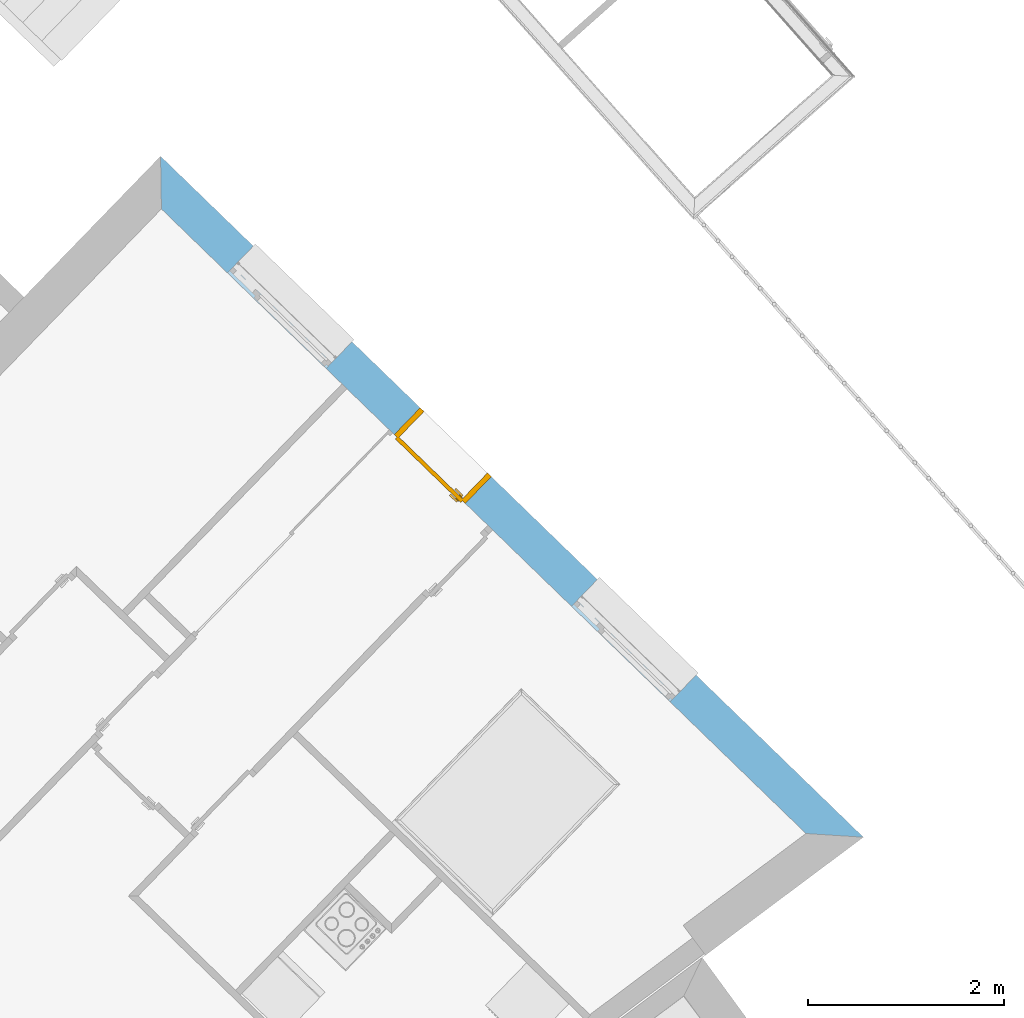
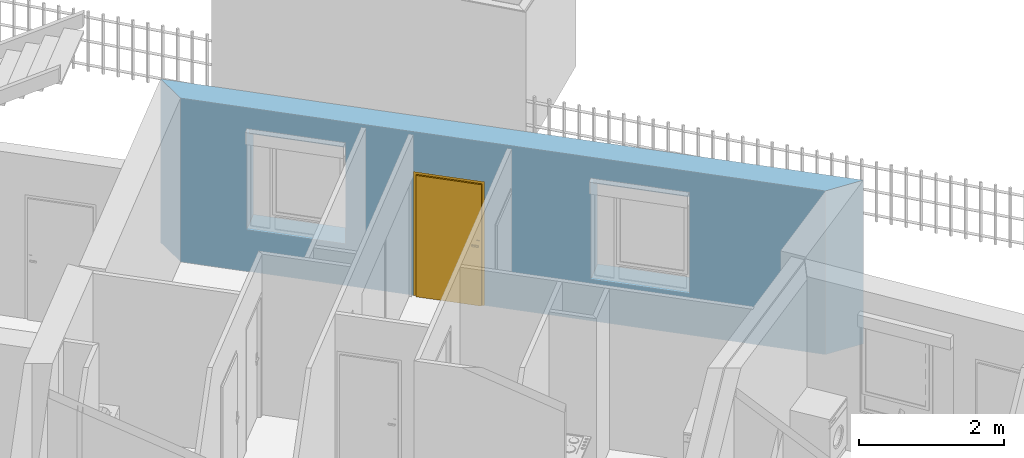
# One storey, part 24 of 195: 1 door, 3 openings, plus 1 element that does not belong to this part.
"""IFC2X3 building model written with IfcOpenShell, lengths in metres."""

import ifcopenshell
import ifcopenshell.guid

model = None  # the IFC model being written
_history = None  # IfcOwnerHistory: only IFC2X3 demands one
_inside = {}  # id of a spatial element -> (the spatial element, [elements in it])
_under = {}  # id of a project, library or spatial element -> (it, [spatial elements below it])
_declared = {}  # id of a project -> (the project, [libraries it declares])
_typed = {}  # id of a type object -> (the type object, [elements of that type])
_made_of = {}  # id of a material, layer set ... -> (it, [elements and type objects made of it])


def new_model(schema):
    """Start an empty IFC model of exactly this schema.

    Asked for "IFC4X3", IfcOpenShell would pick the latest addendum, in which some entities
    have other attributes; the version numbers below select the first issue.
    IFC2X3 requires an IfcOwnerHistory on every rooted entity: one is made here for all.
    """
    global model, _history
    if schema == "IFC4X3":
        model = ifcopenshell.file(schema_version=(4, 3, 0, 0))
    else:
        model = ifcopenshell.file(schema=schema)
    _inside.clear()
    _under.clear()
    _declared.clear()
    _typed.clear()
    _made_of.clear()
    _history = None
    if model.schema == "IFC2X3":
        org = make("IfcOrganization", Name="unknown")
        user = make(
            "IfcPersonAndOrganization",
            ThePerson=make("IfcPerson", FamilyName="unknown"),
            TheOrganization=org,
        )
        app = make(
            "IfcApplication",
            ApplicationDeveloper=org,
            Version="unknown",
            ApplicationFullName="unknown",
            ApplicationIdentifier="unknown",
        )
        _history = make(
            "IfcOwnerHistory",
            OwningUser=user,
            OwningApplication=app,
            ChangeAction="ADDED",
            CreationDate=0,
        )
    return model


def make(cls, **values):
    """One entity of the class cls with the attributes given. An attribute that is None is left unset."""
    return model.create_entity(
        cls, **{name: value for name, value in values.items() if value is not None}
    )


def entity(cls, *values):
    """Any entity or typed value of the class cls, its attributes in the order of the schema. None: left unset."""
    e = model.create_entity(cls)
    for i, value in enumerate(values):
        if value is not None:
            e[i] = value
    return e


def rooted(cls, **values):
    """An entity with a GlobalId (a new one), such as an element, a storey or a relation."""
    return make(cls, GlobalId=ifcopenshell.guid.new(), OwnerHistory=_history, **values)


def si_unit(unit_type, name, prefix=None):
    """IfcSIUnit, for example si_unit("LENGTHUNIT", "METRE", prefix="MILLI")."""
    return make("IfcSIUnit", UnitType=unit_type, Prefix=prefix, Name=name)


def converted_unit(unit_type, name, factor, base, dimensions=None, offset=None):
    """IfcConversionBasedUnit, such as the inch: factor (a typed value) times the base unit."""
    return make(
        "IfcConversionBasedUnit"
        if offset is None
        else "IfcConversionBasedUnitWithOffset",
        ConversionOffset=offset,
        Dimensions=None
        if dimensions is None
        else entity("IfcDimensionalExponents", *dimensions),
        UnitType=unit_type,
        Name=name,
        ConversionFactor=make(
            "IfcMeasureWithUnit", ValueComponent=factor, UnitComponent=base
        ),
    )


def derived_unit(unit_type, elements):
    """IfcDerivedUnit: a product of units, each with its exponent."""
    return make(
        "IfcDerivedUnit",
        Elements=[
            make("IfcDerivedUnitElement", Unit=unit, Exponent=power)
            for unit, power in elements
        ],
        UnitType=unit_type,
    )


def money_unit(currency):
    """IfcMonetaryUnit."""
    return make("IfcMonetaryUnit", Currency=currency)


def assignment(units):
    """IfcUnitAssignment: the units of a project."""
    return None if units is None else make("IfcUnitAssignment", Units=units)


def point(xyz):
    """IfcCartesianPoint."""
    return None if xyz is None else make("IfcCartesianPoint", Coordinates=xyz)


def direction(xyz):
    """IfcDirection."""
    return None if xyz is None else make("IfcDirection", DirectionRatios=xyz)


def frame(location, z_axis=None, x_axis=None):
    """IfcAxis2Placement3D, a coordinate frame: its origin and axes. An axis left out is left unset."""
    return make(
        "IfcAxis2Placement3D",
        Location=point(location),
        Axis=direction(z_axis),
        RefDirection=direction(x_axis),
    )


def frame_2d(location, x_axis=None):
    """IfcAxis2Placement2D, a coordinate frame in the plane: its origin and x axis."""
    return make(
        "IfcAxis2Placement2D", Location=point(location), RefDirection=direction(x_axis)
    )


def origin_with_axes():
    """The frame at (0, 0, 0) with the z axis (0, 0, 1) and the x axis (1, 0, 0) written out."""
    return frame((0.0, 0.0, 0.0), z_axis=(0.0, 0.0, 1.0), x_axis=(1.0, 0.0, 0.0))


def origin_2d_with_axis():
    """The frame at (0, 0) in the plane with the x axis (1, 0) written out."""
    return frame_2d((0.0, 0.0), x_axis=(1.0, 0.0))


def place(relative_to, where):
    """IfcLocalPlacement: puts the frame where relative to a parent placement (None: the world)."""
    return make(
        "IfcLocalPlacement", PlacementRelTo=relative_to, RelativePlacement=where
    )


def context(
    kind, dimensions, precision=None, world=None, true_north=None, identifier=None
):
    """IfcGeometricRepresentationContext, for example the 3D "Model" context."""
    return make(
        "IfcGeometricRepresentationContext",
        ContextIdentifier=identifier,
        ContextType=kind,
        CoordinateSpaceDimension=dimensions,
        Precision=precision,
        WorldCoordinateSystem=world,
        TrueNorth=true_north,
    )


def subcontext(parent, identifier, kind, view, scale=None):
    """IfcGeometricRepresentationSubContext, for example "Body" below "Model"."""
    return make(
        "IfcGeometricRepresentationSubContext",
        ContextIdentifier=identifier,
        ContextType=kind,
        ParentContext=parent,
        TargetScale=scale,
        TargetView=view,
    )


def project(units=None, contexts=None):
    """IfcProject with its units and contexts."""
    return rooted(
        "IfcProject",
        Name="project",
        RepresentationContexts=contexts,
        UnitsInContext=assignment(units),
    )


def spatial(cls, under=None, at=None, **own):
    """A site, building, storey or space (cls), placed at a placement, below another one or the project."""
    s = rooted(cls, ObjectPlacement=at, **own)
    if under is not None:
        _under.setdefault(under.id(), (under, []))[1].append(s)
    return s


def polyline(points):
    """IfcPolyline through the points."""
    return make("IfcPolyline", Points=[point(p) for p in points])


def profile(cls, at=None, kind="AREA", **sizes):
    """A parametric profile (cls). Its sizes go by their IFC names, for example OverallWidth=200.0."""
    return make(cls, ProfileType=kind, Position=at, **sizes)


def rectangle(**sizes):
    """IfcRectangleProfileDef."""
    return profile("IfcRectangleProfileDef", **sizes)


def outline(outer, holes=None, kind="AREA"):
    """IfcArbitraryClosedProfileDef: a profile drawn as a closed curve; with holes, ...WithVoids."""
    if holes is None:
        return make("IfcArbitraryClosedProfileDef", ProfileType=kind, OuterCurve=outer)
    return make(
        "IfcArbitraryProfileDefWithVoids",
        ProfileType=kind,
        OuterCurve=outer,
        InnerCurves=holes,
    )


def extrude(swept, where, along, depth):
    """IfcExtrudedAreaSolid: the profile swept, set in the frame where, extruded along a direction by depth."""
    return make(
        "IfcExtrudedAreaSolid",
        SweptArea=swept,
        Position=where,
        ExtrudedDirection=direction(along),
        Depth=depth,
    )


def faces_of(points, faces, orient=None, outer=None):
    """IfcFace entities. A face is a list of loops; a loop is a list of indices into points, from 0.

    orient and outer hold one flag for each loop. By default every Orientation is true, the
    first loop of a face is its IfcFaceOuterBound and the others are IfcFaceBound.
    """
    made = []
    for i, loops in enumerate(faces):
        bounds = []
        for j, loop in enumerate(loops):
            is_outer = j == 0 if outer is None else outer[i][j]
            bounds.append(
                make(
                    "IfcFaceOuterBound" if is_outer else "IfcFaceBound",
                    Bound=make("IfcPolyLoop", Polygon=[points[k] for k in loop]),
                    Orientation=True if orient is None else orient[i][j],
                )
            )
        made.append(make("IfcFace", Bounds=bounds))
    return made


def faceted_brep(points, faces, orient=None, outer=None, voids=None):
    """IfcFacetedBrep: a solid bounded by flat faces; with voids (closed shells), ...WithVoids."""
    shared = [point(p) for p in points]
    hull = make("IfcClosedShell", CfsFaces=faces_of(shared, faces, orient, outer))
    if voids is None:
        return make("IfcFacetedBrep", Outer=hull)
    return make(
        "IfcFacetedBrepWithVoids",
        Outer=hull,
        Voids=[
            make(cls, CfsFaces=faces_of(shared, fs, o, b)) for cls, fs, o, b in voids
        ],
    )


def shape(context_of_items, identifier, shape_type, items):
    """IfcShapeRepresentation: the items that make up one representation, for example the "Body"."""
    return make(
        "IfcShapeRepresentation",
        ContextOfItems=context_of_items,
        RepresentationIdentifier=identifier,
        RepresentationType=shape_type,
        Items=items,
    )


def source(mapping_origin, context_of_items, identifier, shape_type, items):
    """IfcRepresentationMap: a shape defined once, which mapped items show again and again."""
    return make(
        "IfcRepresentationMap",
        MappingOrigin=mapping_origin,
        MappedRepresentation=shape(context_of_items, identifier, shape_type, items),
    )


def transform(
    local_origin,
    x_axis=None,
    y_axis=None,
    z_axis=None,
    scale=None,
    scale2=None,
    scale3=None,
    uniform=True,
):
    """IfcCartesianTransformationOperator3D, or its non-uniform kind. x_axis, y_axis, z_axis: its Axis1, 2, 3."""
    if uniform:
        return make(
            "IfcCartesianTransformationOperator3D",
            Axis1=direction(x_axis),
            Axis2=direction(y_axis),
            LocalOrigin=point(local_origin),
            Scale=scale,
            Axis3=direction(z_axis),
        )
    return make(
        "IfcCartesianTransformationOperator3DnonUniform",
        Axis1=direction(x_axis),
        Axis2=direction(y_axis),
        LocalOrigin=point(local_origin),
        Scale=scale,
        Axis3=direction(z_axis),
        Scale2=scale2,
        Scale3=scale3,
    )


def mapped(mapping_source, mapping_target):
    """IfcMappedItem: shows the shape of a source again, moved by a transform."""
    return make(
        "IfcMappedItem", MappingSource=mapping_source, MappingTarget=mapping_target
    )


def material(Name=None, Category=None):
    """IfcMaterial."""
    return make("IfcMaterial", Name=Name, Category=Category)


def layer(
    of_material, thickness, ventilated=None, Name=None, Category=None, Priority=None
):
    """IfcMaterialLayer: one layer of a wall or slab, of a material (None: an air gap)."""
    return make(
        "IfcMaterialLayer",
        Material=of_material,
        LayerThickness=thickness,
        IsVentilated=ventilated,
        Name=Name,
        Category=Category,
        Priority=Priority,
    )


def layer_set(layers, Name=None):
    """IfcMaterialLayerSet."""
    return make("IfcMaterialLayerSet", MaterialLayers=layers, LayerSetName=Name)


def layer_usage(for_layer_set, set_direction, sense, offset, extent=None):
    """IfcMaterialLayerSetUsage: how a layer set lies in its element."""
    return make(
        "IfcMaterialLayerSetUsage",
        ForLayerSet=for_layer_set,
        LayerSetDirection=set_direction,
        DirectionSense=sense,
        OffsetFromReferenceLine=offset,
        ReferenceExtent=extent,
    )


def made_of(thing, what):
    """Note that an element or type object is made of a material, layer set ...; save() writes the relation."""
    if what is not None:
        _made_of.setdefault(what.id(), (what, []))[1].append(thing)
    return thing


def type_object(cls, material=None, **own):
    """A type object (cls), such as IfcWallType, which elements share."""
    return made_of(rooted(cls, **own), material)


def element(
    cls,
    number,
    at=None,
    inside=None,
    cuts=None,
    type_object=None,
    material=None,
    context=None,
    identifier="Body",
    shape_type=None,
    held_by="IfcProductDefinitionShape",
    body=None,
    shapes=None,
    **own,
):
    """One element of the class cls, such as IfcWall. Its Tag is "e" and its number.

    at: its placement. inside: the storey or other place that contains it. cuts: it is an
    opening in that element (IfcRelVoidsElement). A single representation is given by context,
    identifier, shape_type and body (its items); several are given by shapes. held_by: the class
    of the entity that holds the representations. save() writes the other relations.
    """
    e = rooted(cls, Tag="e%d" % number, ObjectPlacement=at, **own)
    if body is not None:
        shapes = [shape(context, identifier, shape_type, body)]
    if shapes is not None:
        e.Representation = make(held_by, Representations=shapes)
    if inside is not None:
        _inside.setdefault(inside.id(), (inside, []))[1].append(e)
    if cuts is not None:
        rooted(
            "IfcRelVoidsElement", RelatingBuildingElement=cuts, RelatedOpeningElement=e
        )
    if type_object is not None:
        _typed.setdefault(type_object.id(), (type_object, []))[1].append(e)
    return made_of(e, material)


def fill(opening, filler):
    """IfcRelFillsElement: the door or window that sits in an opening."""
    return rooted(
        "IfcRelFillsElement",
        RelatingOpeningElement=opening,
        RelatedBuildingElement=filler,
    )


def aggregate(whole, parts):
    """IfcRelAggregates: a whole, such as a stair, and the parts it consists of."""
    return rooted("IfcRelAggregates", RelatingObject=whole, RelatedObjects=parts)


def save(model, path):
    """Write the relations noted so far, then the file.

    IfcRelAggregates (storeys below a building ...), IfcRelContainedInSpatialStructure (elements
    in a storey), IfcRelDefinesByType, IfcRelAssociatesMaterial and IfcRelDeclares: one each for
    every whole, place, type object, material and project.
    """
    for whole, parts in _under.values():
        aggregate(whole, parts)
    for where, things in _inside.values():
        rooted(
            "IfcRelContainedInSpatialStructure",
            RelatedElements=things,
            RelatingStructure=where,
        )
    for kind, things in _typed.values():
        rooted("IfcRelDefinesByType", RelatedObjects=things, RelatingType=kind)
    for what, things in _made_of.values():
        rooted("IfcRelAssociatesMaterial", RelatedObjects=things, RelatingMaterial=what)
    for by, libraries in _declared.values():
        rooted("IfcRelDeclares", RelatingContext=by, RelatedDefinitions=libraries)
    model.write(path)


model = new_model("IFC2X3")

# Units and contexts
model_context = context("Model", 3, precision=1e-05, world=origin_with_axes(), true_north=direction((0.0, 1.0)))
body_context = subcontext(model_context, "Body", "Model", "MODEL_VIEW")
ifc_project = project(units=[si_unit("LENGTHUNIT", "METRE"), si_unit("AREAUNIT", "SQUARE_METRE"), si_unit("VOLUMEUNIT", "CUBIC_METRE"), converted_unit("PLANEANGLEUNIT", "DEGREE", entity("IfcPlaneAngleMeasure", 0.0174532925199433), si_unit("PLANEANGLEUNIT", "RADIAN"), dimensions=[0, 0, 0, 0, 0, 0, 0]), money_unit("CHF"), converted_unit("TIMEUNIT", "Year", entity("IfcTimeMeasure", 31557600.0), si_unit("TIMEUNIT", "SECOND"), dimensions=[0, 0, 1, 0, 0, 0, 0]), si_unit("MASSUNIT", "GRAM", prefix="KILO"), si_unit("THERMODYNAMICTEMPERATUREUNIT", "DEGREE_CELSIUS"), si_unit("LUMINOUSINTENSITYUNIT", "LUMEN"), si_unit("ENERGYUNIT", "JOULE", prefix="MEGA"), derived_unit("THERMALCONDUCTANCEUNIT", [(si_unit("POWERUNIT", "WATT"), 1), (si_unit("LENGTHUNIT", "METRE"), -1), (si_unit("THERMODYNAMICTEMPERATUREUNIT", "KELVIN"), -1)]), derived_unit("SPECIFICHEATCAPACITYUNIT", [(si_unit("ENERGYUNIT", "JOULE"), 1), (si_unit("MASSUNIT", "GRAM", prefix="KILO"), -1), (si_unit("THERMODYNAMICTEMPERATUREUNIT", "KELVIN"), -1)]), derived_unit("MASSDENSITYUNIT", [(si_unit("MASSUNIT", "GRAM", prefix="KILO"), 1), (si_unit("VOLUMEUNIT", "CUBIC_METRE"), -1)])], contexts=[model_context])

# Site, building, storey
site_placement = place(None, origin_with_axes())
site = spatial("IfcSite", under=ifc_project, at=site_placement, Name="Site", CompositionType="ELEMENT")
building_placement = place(site_placement, origin_with_axes())
building = spatial("IfcBuilding", under=site, at=building_placement, Name="Bâtiment", CompositionType="ELEMENT")
storey_placement = place(building_placement, origin_with_axes())
storey = spatial("IfcBuildingStorey", under=building, at=storey_placement, Name="rdc", CompositionType="ELEMENT", Elevation=0.0)

# Wall, openings, door
ifc_material_1 = material(Name="Parpaing 312445824")
ifc_layer_1 = layer(ifc_material_1, 0.22, ventilated="UNKNOWN")
ifc_material_2 = material(Name="Isolant styromousse 301821074")
ifc_layer_2 = layer(ifc_material_2, 0.16, ventilated="UNKNOWN")
ifc_layer_set = layer_set([ifc_layer_1, ifc_layer_2], Name="isol int 22+16 0836643197")
ifc_layer_usage = layer_usage(ifc_layer_set, "AXIS2", "NEGATIVE", 0.0)
wall_type = type_object("IfcWallType", Name="isol int 22+16 0836643197 380", PredefinedType="NOTDEFINED")
wall_placement = place(storey_placement, frame((9531.989867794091, -1061.560379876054, 57.7), z_axis=(0.0, 0.0, 1.0), x_axis=(0.7181763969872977, -0.6958610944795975, 0.0)))
wall = element("IfcWallStandardCase", 1, at=wall_placement, inside=storey, type_object=wall_type, material=ifc_layer_usage, Name="Mur-116", context=body_context, shape_type="SweptSolid", body=[
    extrude(outline(polyline([(0.3800000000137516, -0.3799999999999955), (9.524551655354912, -0.3800000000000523), (9.970619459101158, 0.0), (0.0, 0.0), (0.3800000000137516, -0.3799999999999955)])), origin_with_axes(), (0.0, 0.0, 1.0), 2.75),
])
opening_1_placement = place(wall_placement, frame((6.896864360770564, 0.0, 0.7000000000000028), z_axis=(0.0, 0.0, 1.0), x_axis=(1.0, 0.0, 0.0)))
element("IfcOpeningElement", 2, at=opening_1_placement, cuts=wall, Name="Fen-045", context=body_context, shape_type="Brep", body=[
    faceted_brep([(-0.7000000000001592, -0.2200000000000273, 1.5), (0.6999999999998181, -0.2200000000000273, 1.5), (0.6999999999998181, 4.983827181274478, 1.5), (-0.7000000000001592, 4.983827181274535, 1.5), (-0.7000000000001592, -0.2200000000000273, 1.700000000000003), (0.6999999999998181, -0.2200000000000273, 1.700000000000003), (0.6999999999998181, -0.3000000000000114, 1.5), (0.6999999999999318, -0.3000000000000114, 0.0), (0.6999999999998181, 4.983827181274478, 0.0), (-0.7000000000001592, 4.983827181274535, 0.0), (-0.7000000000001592, -0.2999999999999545, 1.5), (-0.7000000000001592, -0.3000000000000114, 0.0), (-0.7000000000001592, -0.4799999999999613, 1.5), (-0.7000000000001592, -0.4799999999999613, 1.700000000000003), (0.6999999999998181, -0.4799999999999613, 1.700000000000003), (0.6999999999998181, -0.4799999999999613, 1.5), (0.6999999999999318, -5.36382718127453, 1.5), (0.6999999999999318, -5.36382718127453, 0.0), (-0.7000000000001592, -5.363827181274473, 0.0), (-0.7000000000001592, -5.363827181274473, 1.5)], [[[0, 1, 2, 3]], [[1, 0, 4, 5]], [[1, 6, 7, 8, 2]], [[2, 8, 9, 3]], [[10, 0, 3, 9, 11]], [[0, 10, 12, 13, 4]], [[4, 13, 14, 5]], [[6, 1, 5, 14, 15]], [[6, 15, 16, 17, 7]], [[7, 11, 9, 8]], [[12, 10, 11, 18, 19]], [[12, 15, 14, 13]], [[15, 12, 19, 16]], [[19, 18, 17, 16]], [[11, 7, 17, 18]]]),
])
opening_2_placement = place(wall_placement, frame((2.01605944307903, 0.0, 0.7000000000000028), z_axis=(0.0, 0.0, 1.0), x_axis=(1.0, 0.0, 0.0)))
element("IfcOpeningElement", 3, at=opening_2_placement, cuts=wall, Name="Fen-045", context=body_context, shape_type="Brep", body=[
    faceted_brep([(-0.7000000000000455, -0.2200000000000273, 1.5), (0.6999999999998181, -0.2200000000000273, 1.5), (0.6999999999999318, 4.983827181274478, 1.5), (-0.7000000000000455, 4.983827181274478, 1.5), (-0.7000000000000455, -0.2200000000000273, 1.700000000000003), (0.6999999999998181, -0.2200000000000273, 1.700000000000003), (0.6999999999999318, -0.3000000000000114, 1.5), (0.6999999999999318, -0.3000000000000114, 0.0), (0.6999999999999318, 4.983827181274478, 0.0), (-0.7000000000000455, 4.983827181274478, 0.0), (-0.7000000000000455, -0.2999999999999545, 1.5), (-0.7000000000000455, -0.3000000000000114, 0.0), (-0.7000000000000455, -0.4799999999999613, 1.5), (-0.7000000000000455, -0.4799999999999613, 1.700000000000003), (0.6999999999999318, -0.4799999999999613, 1.700000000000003), (0.6999999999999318, -0.4799999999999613, 1.5), (0.6999999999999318, -5.363827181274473, 1.5), (0.6999999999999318, -5.363827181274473, 0.0), (-0.7000000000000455, -5.363827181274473, 0.0), (-0.7000000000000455, -5.363827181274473, 1.5)], [[[0, 1, 2, 3]], [[1, 0, 4, 5]], [[1, 6, 7, 8, 2]], [[2, 8, 9, 3]], [[10, 0, 3, 9, 11]], [[0, 10, 12, 13, 4]], [[4, 13, 14, 5]], [[6, 1, 5, 14, 15]], [[6, 15, 16, 17, 7]], [[7, 11, 9, 8]], [[12, 10, 11, 18, 19]], [[12, 15, 14, 13]], [[15, 12, 19, 16]], [[19, 18, 17, 16]], [[11, 7, 17, 18]]]),
])
opening_3_placement = place(wall_placement, frame((4.187148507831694, 0.0, 0.0), z_axis=(0.0, 0.0, 1.0), x_axis=(1.0, 0.0, 0.0)))
opening_3 = element("IfcOpeningElement", 4, at=opening_3_placement, cuts=wall, Name="Por-297", context=body_context, shape_type="SweptSolid", body=[
    extrude(rectangle(XDim=1.01000001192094, YDim=2.079999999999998, at=origin_2d_with_axis()), frame((-5.960487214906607e-09, 0.3799999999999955, 1.039999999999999), z_axis=(0.0, -1.0, 0.0), x_axis=(-1.0, 0.0, 0.0)), (0.0, 0.0, 1.0), 0.76),
])
door_style = type_object("IfcDoorStyle", Name="Porte_1v", ConstructionType="NOTDEFINED", OperationType="NOTDEFINED", ParameterTakesPrecedence=False, Sizeable=False)
shared_shape = source(origin_with_axes(), body_context, "Body", "Brep", [
    faceted_brep([(0.5049999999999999, 0.0, 0.0), (0.465, 0.0, 0.0), (0.4649999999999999, 0.0, 2.04), (-0.4649999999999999, 0.0, 2.04), (-0.465, 0.0, 0.0), (-0.5049999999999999, 0.0, 0.0), (-0.5049999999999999, 0.0, 2.08), (0.5049999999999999, 0.0, 2.08), (0.5049999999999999, -0.38, 0.0), (0.45, -0.3799999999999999, 0.0), (0.45, -0.01500000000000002, 0.0), (0.465, -0.01500000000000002, 0.0), (0.4649999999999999, -0.01500000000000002, 2.04), (-0.4649999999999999, -0.01499999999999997, 2.04), (-0.465, -0.01499999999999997, 0.0), (-0.45, -0.01499999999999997, 0.0), (-0.45, -0.3799999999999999, 0.0), (-0.5049999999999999, -0.3799999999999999, 0.0), (-0.5049999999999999, -0.3799999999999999, 2.08), (0.5049999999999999, -0.38, 2.08), (-0.45, -0.3799999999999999, 2.025), (0.45, -0.3799999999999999, 2.025), (0.45, -0.01500000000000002, 2.025), (-0.45, -0.01499999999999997, 2.025)], [[[0, 1, 2, 3, 4, 5, 6, 7]], [[0, 8, 9, 10, 11, 1]], [[1, 11, 12, 2]], [[2, 12, 13, 3]], [[3, 13, 14, 4]], [[5, 4, 14, 15, 16, 17]], [[18, 6, 5, 17]], [[19, 7, 6, 18]], [[8, 0, 7, 19]], [[9, 8, 19, 18, 17, 16, 20, 21]], [[10, 9, 21, 22]], [[11, 10, 22, 23, 15, 14, 13, 12]], [[23, 20, 16, 15]], [[22, 21, 20, 23]]]),
    faceted_brep([(-0.4, -0.01499999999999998, 0.9), (-0.4399999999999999, -0.01499999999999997, 0.9), (-0.4399999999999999, -0.01499999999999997, 1.1), (-0.4, -0.01499999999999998, 1.1), (-0.4, -0.02499999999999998, 0.9), (-0.4399999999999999, -0.02499999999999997, 0.9), (-0.4399999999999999, -0.02499999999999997, 1.1), (-0.4, -0.02499999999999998, 1.1)], [[[0, 1, 2, 3]], [[1, 0, 4, 5]], [[2, 1, 5, 6]], [[3, 2, 6, 7]], [[0, 3, 7, 4]], [[5, 4, 7, 6]]]),
    faceted_brep([(-0.3299999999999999, -0.02499999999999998, 1.0), (-0.4299999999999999, -0.02499999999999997, 1.0), (-0.4299999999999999, -0.02499999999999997, 1.02), (-0.3299999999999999, -0.02499999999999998, 1.02), (-0.3299999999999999, -0.04499999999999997, 1.0), (-0.4299999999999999, -0.04499999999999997, 1.0), (-0.4299999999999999, -0.04499999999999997, 1.02), (-0.3299999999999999, -0.04499999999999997, 1.02)], [[[0, 1, 2, 3]], [[1, 0, 4, 5]], [[2, 1, 5, 6]], [[3, 2, 6, 7]], [[0, 3, 7, 4]], [[5, 4, 7, 6]]]),
    faceted_brep([(-0.4, 0.03500000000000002, 0.9), (-0.4399999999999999, 0.03500000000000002, 0.9), (-0.4399999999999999, 0.03500000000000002, 1.1), (-0.4, 0.03500000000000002, 1.1), (-0.4, 0.02500000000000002, 0.9), (-0.4399999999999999, 0.02500000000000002, 0.9), (-0.4399999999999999, 0.02500000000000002, 1.1), (-0.4, 0.02500000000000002, 1.1)], [[[0, 1, 2, 3]], [[1, 0, 4, 5]], [[2, 1, 5, 6]], [[3, 2, 6, 7]], [[0, 3, 7, 4]], [[5, 4, 7, 6]]]),
    faceted_brep([(-0.3299999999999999, 0.05500000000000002, 1.0), (-0.4299999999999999, 0.05500000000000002, 1.0), (-0.4299999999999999, 0.05500000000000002, 1.02), (-0.3299999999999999, 0.05500000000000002, 1.02), (-0.3299999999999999, 0.03500000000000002, 1.0), (-0.4299999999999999, 0.03500000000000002, 1.0), (-0.4299999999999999, 0.03500000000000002, 1.02), (-0.3299999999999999, 0.03500000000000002, 1.02)], [[[0, 1, 2, 3]], [[1, 0, 4, 5]], [[2, 1, 5, 6]], [[3, 2, 6, 7]], [[0, 3, 7, 4]], [[5, 4, 7, 6]]]),
    faceted_brep([(-0.465, 0.02500000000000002, 0.0), (0.465, 0.02499999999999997, 0.0), (0.465, -0.01500000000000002, 0.0), (-0.465, -0.01499999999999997, 0.0), (-0.465, 0.02500000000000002, 2.04), (0.465, 0.02499999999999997, 2.04), (0.465, -0.01500000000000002, 2.04), (-0.465, -0.01499999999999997, 2.04)], [[[0, 1, 2, 3]], [[0, 4, 5, 1]], [[1, 5, 6, 2]], [[3, 2, 6, 7]], [[4, 0, 3, 7]], [[5, 4, 7, 6]]]),
])
door_placement = place(opening_3_placement, frame((0.4649999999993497, 0.0, 0.0), z_axis=(0.0, 0.0, 1.0), x_axis=(-1.0, 0.0, 0.0)))
door = element("IfcDoor", 5, at=door_placement, inside=storey, type_object=door_style, Name="Por-297", OverallHeight=2.04, OverallWidth=0.93, context=body_context, shape_type="MappedRepresentation", body=[
    mapped(shared_shape, transform((0.4649999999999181, 0.3800000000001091, 0.0))),
])
fill(opening_3, door)

save(model, "model.ifc")
